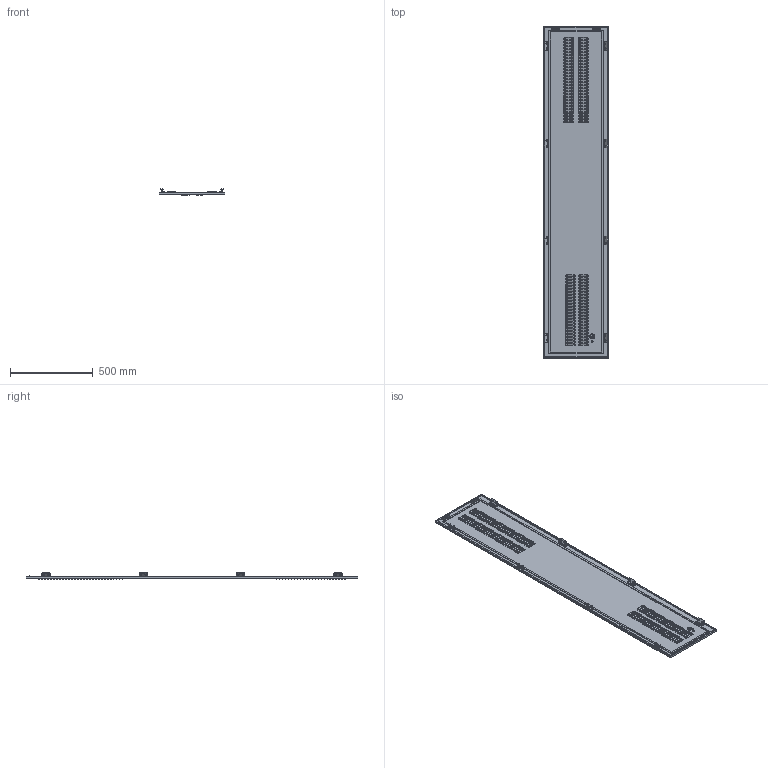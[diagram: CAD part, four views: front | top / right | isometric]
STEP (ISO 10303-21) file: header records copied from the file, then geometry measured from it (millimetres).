
FILE_DESCRIPTION (( 'STEP AP214' ), '1' );
FILE_NAME ('FO-00-PBV-200-040 Ïàíåëü çàäíÿÿ âåíòèëèðóåìàÿ 2000õ400 ìì.STEP', '2025-07-25T12:11:21', ( '' ), ( '' ), 'SwSTEP 2.0', 'SolidWorks 2023', '' );
FILE_SCHEMA (( 'AUTOMOTIVE_DESIGN' ));
Products named in the file (1): FO-00-PBV-200-040 Панель задняя вентилируемая 2000х400 мм
Bounding box: 395 x 2000 x 37.03 mm (x, y, z)
Volume: 1436428.9 mm3; surface area: 1866826.1 mm2
Topology: 1 solids, 1 shells, 3218 faces, 8559 edges, 5394 vertices
Faces by surface type: plane 1189, cylinder 976, torus 848, cone 194, bspline 11
Entity records: 102423 total; most frequent: DIRECTION 19480, CARTESIAN_POINT 18091, ORIENTED_EDGE 17118, EDGE_CURVE 8559, AXIS2_PLACEMENT_3D 7782, VERTEX_POINT 5394, CIRCLE 4574, LINE 3916
